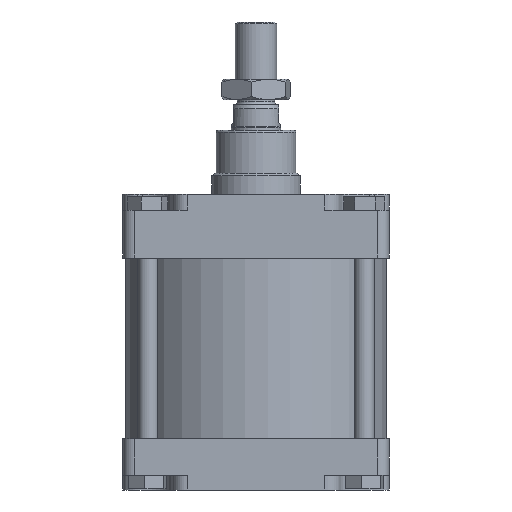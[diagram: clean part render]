
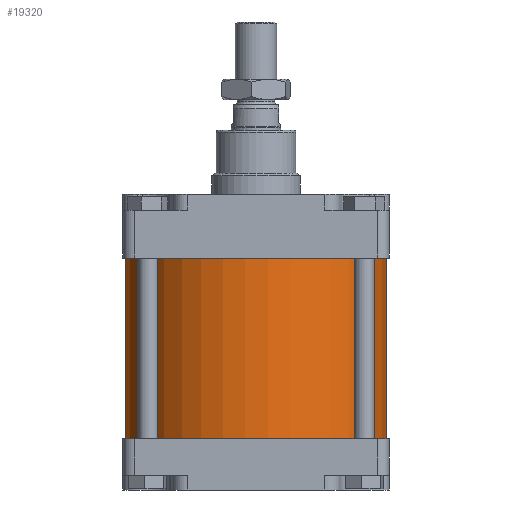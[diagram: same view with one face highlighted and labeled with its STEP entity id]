
A CAD part, left-side view. The second image highlights one B-rep face of the part: STEP entity #19320.
In plain terms, the highlighted cylindrical face has radius 132.5 mm (diameter 265 mm), a partial arc.
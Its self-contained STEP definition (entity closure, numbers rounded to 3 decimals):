
#643 = EDGE_LOOP ( 'NONE', ( #1035, #15837, #4779, #22584 ) ) ;
#1035 = ORIENTED_EDGE ( 'NONE', *, *, #12664, .F. ) ;
#2504 = DIRECTION ( 'NONE',  ( 0., 0., -1. ) ) ;
#3498 = DIRECTION ( 'NONE',  ( 0., 0., -1. ) ) ;
#4157 = VERTEX_POINT ( 'NONE', #18996 ) ;
#4159 = CARTESIAN_POINT ( 'NONE',  ( 11.022, 132.041, -64.6 ) ) ;
#4779 = ORIENTED_EDGE ( 'NONE', *, *, #17940, .T. ) ;
#4798 = CARTESIAN_POINT ( 'NONE',  ( -11.022, -132.041, -248. ) ) ;
#4969 = VECTOR ( 'NONE', #7727, 1000. ) ;
#5441 = DIRECTION ( 'NONE',  ( 0., 0., -1. ) ) ;
#5470 = DIRECTION ( 'NONE',  ( 0.083, 0.997, 0. ) ) ;
#6895 = LINE ( 'NONE', #13710, #4969 ) ;
#7039 = CYLINDRICAL_SURFACE ( 'NONE', #7966, 132.5 ) ;
#7727 = DIRECTION ( 'NONE',  ( 0., 0., -1. ) ) ;
#7966 = AXIS2_PLACEMENT_3D ( 'NONE', #20546, #2504, #10623 ) ;
#9685 = EDGE_CURVE ( 'NONE', #15003, #4157, #16386, .T. ) ;
#10122 = DIRECTION ( 'NONE',  ( 0., 0., 1. ) ) ;
#10607 = AXIS2_PLACEMENT_3D ( 'NONE', #11440, #3498, #5470 ) ;
#10623 = DIRECTION ( 'NONE',  ( 0.083, 0.997, 0. ) ) ;
#11167 = FACE_OUTER_BOUND ( 'NONE', #643, .T. ) ;
#11440 = CARTESIAN_POINT ( 'NONE',  ( 0., 0., -248. ) ) ;
#12664 = EDGE_CURVE ( 'NONE', #4157, #16465, #25698, .T. ) ;
#13710 = CARTESIAN_POINT ( 'NONE',  ( 11.022, 132.041, -52. ) ) ;
#13734 = CARTESIAN_POINT ( 'NONE',  ( -11.022, -132.041, -52. ) ) ;
#14505 = EDGE_CURVE ( 'NONE', #16465, #17885, #14696, .T. ) ;
#14696 = CIRCLE ( 'NONE', #10607, 132.5 ) ;
#15003 = VERTEX_POINT ( 'NONE', #4159 ) ;
#15837 = ORIENTED_EDGE ( 'NONE', *, *, #9685, .F. ) ;
#16386 = CIRCLE ( 'NONE', #18762, 132.5 ) ;
#16465 = VERTEX_POINT ( 'NONE', #4798 ) ;
#17724 = CARTESIAN_POINT ( 'NONE',  ( 11.022, 132.041, -248. ) ) ;
#17885 = VERTEX_POINT ( 'NONE', #17724 ) ;
#17940 = EDGE_CURVE ( 'NONE', #15003, #17885, #6895, .T. ) ;
#17993 = VECTOR ( 'NONE', #5441, 1000. ) ;
#18090 = DIRECTION ( 'NONE',  ( 0.083, 0.997, 0. ) ) ;
#18762 = AXIS2_PLACEMENT_3D ( 'NONE', #24291, #10122, #18090 ) ;
#18996 = CARTESIAN_POINT ( 'NONE',  ( -11.022, -132.041, -64.6 ) ) ;
#19320 = ADVANCED_FACE ( 'NONE', ( #11167 ), #7039, .T. ) ;
#20546 = CARTESIAN_POINT ( 'NONE',  ( 0., 0., -52. ) ) ;
#22584 = ORIENTED_EDGE ( 'NONE', *, *, #14505, .F. ) ;
#24291 = CARTESIAN_POINT ( 'NONE',  ( 0., 0., -64.6 ) ) ;
#25698 = LINE ( 'NONE', #13734, #17993 ) ;
